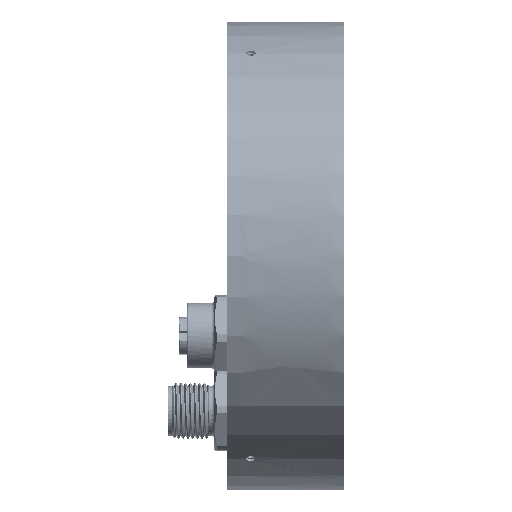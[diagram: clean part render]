
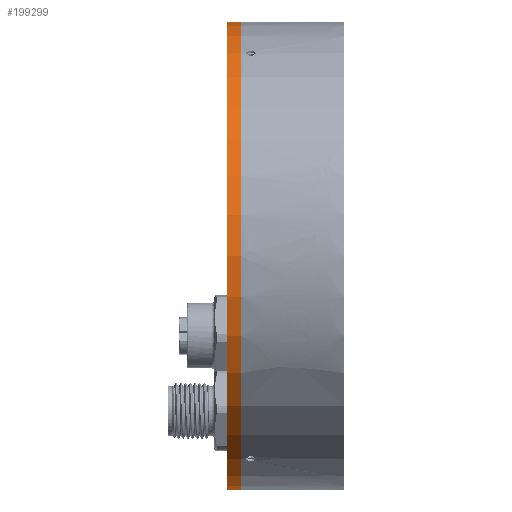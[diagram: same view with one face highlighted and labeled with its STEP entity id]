
A CAD part, front view. The second image highlights one B-rep face of the part: STEP entity #199299.
In plain terms, the highlighted cylindrical face has radius 50 mm (diameter 100 mm), a partial arc.
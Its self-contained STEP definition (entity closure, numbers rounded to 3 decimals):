
#1652 = EDGE_LOOP ( 'NONE', ( #124287, #41137, #228894, #301550 ) ) ;
#12300 = DIRECTION ( 'NONE',  ( -1., 0., 0. ) ) ;
#27486 = CARTESIAN_POINT ( 'NONE',  ( 0., 0., -50. ) ) ;
#30769 = VERTEX_POINT ( 'NONE', #92648 ) ;
#41137 = ORIENTED_EDGE ( 'NONE', *, *, #53278, .T. ) ;
#44308 = VECTOR ( 'NONE', #131204, 1000. ) ;
#46250 = DIRECTION ( 'NONE',  ( -1., 0., 0. ) ) ;
#53278 = EDGE_CURVE ( 'NONE', #191155, #190847, #203434, .T. ) ;
#72230 = VECTOR ( 'NONE', #46250, 1000. ) ;
#72240 = DIRECTION ( 'NONE',  ( -1., 0., 0. ) ) ;
#76978 = DIRECTION ( 'NONE',  ( 0., 0., 1. ) ) ;
#88220 = CARTESIAN_POINT ( 'NONE',  ( 6., 0., 50. ) ) ;
#92648 = CARTESIAN_POINT ( 'NONE',  ( -3., 0., -50. ) ) ;
#100220 = FACE_OUTER_BOUND ( 'NONE', #1652, .T. ) ;
#110122 = LINE ( 'NONE', #302479, #44308 ) ;
#110667 = DIRECTION ( 'NONE',  ( 0., 0., 1. ) ) ;
#117064 = AXIS2_PLACEMENT_3D ( 'NONE', #122304, #72240, #76978 ) ;
#118118 = CARTESIAN_POINT ( 'NONE',  ( 6., 0., 0. ) ) ;
#122304 = CARTESIAN_POINT ( 'NONE',  ( -3., 0., 0. ) ) ;
#124287 = ORIENTED_EDGE ( 'NONE', *, *, #268353, .F. ) ;
#131204 = DIRECTION ( 'NONE',  ( -1., 0., 0. ) ) ;
#146704 = AXIS2_PLACEMENT_3D ( 'NONE', #162375, #12300, #110667 ) ;
#147172 = CYLINDRICAL_SURFACE ( 'NONE', #293425, 50. ) ;
#162375 = CARTESIAN_POINT ( 'NONE',  ( 0., 0., 0. ) ) ;
#171845 = VERTEX_POINT ( 'NONE', #314765 ) ;
#190847 = VERTEX_POINT ( 'NONE', #196235 ) ;
#191155 = VERTEX_POINT ( 'NONE', #27486 ) ;
#196235 = CARTESIAN_POINT ( 'NONE',  ( 0., 0., 50. ) ) ;
#199299 = ADVANCED_FACE ( 'NONE', ( #100220 ), #147172, .T. ) ;
#203434 = CIRCLE ( 'NONE', #146704, 50. ) ;
#211638 = EDGE_CURVE ( 'NONE', #190847, #171845, #290125, .T. ) ;
#228894 = ORIENTED_EDGE ( 'NONE', *, *, #211638, .T. ) ;
#245725 = DIRECTION ( 'NONE',  ( 0., 0., 1. ) ) ;
#256377 = CIRCLE ( 'NONE', #117064, 50. ) ;
#268353 = EDGE_CURVE ( 'NONE', #191155, #30769, #110122, .T. ) ;
#290125 = LINE ( 'NONE', #88220, #72230 ) ;
#292237 = EDGE_CURVE ( 'NONE', #30769, #171845, #256377, .T. ) ;
#293425 = AXIS2_PLACEMENT_3D ( 'NONE', #118118, #315237, #245725 ) ;
#301550 = ORIENTED_EDGE ( 'NONE', *, *, #292237, .F. ) ;
#302479 = CARTESIAN_POINT ( 'NONE',  ( 6., 0., -50. ) ) ;
#314765 = CARTESIAN_POINT ( 'NONE',  ( -3., 0., 50. ) ) ;
#315237 = DIRECTION ( 'NONE',  ( -1., 0., 0. ) ) ;
